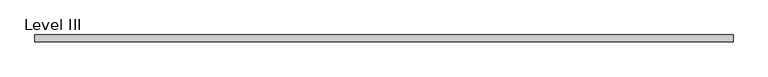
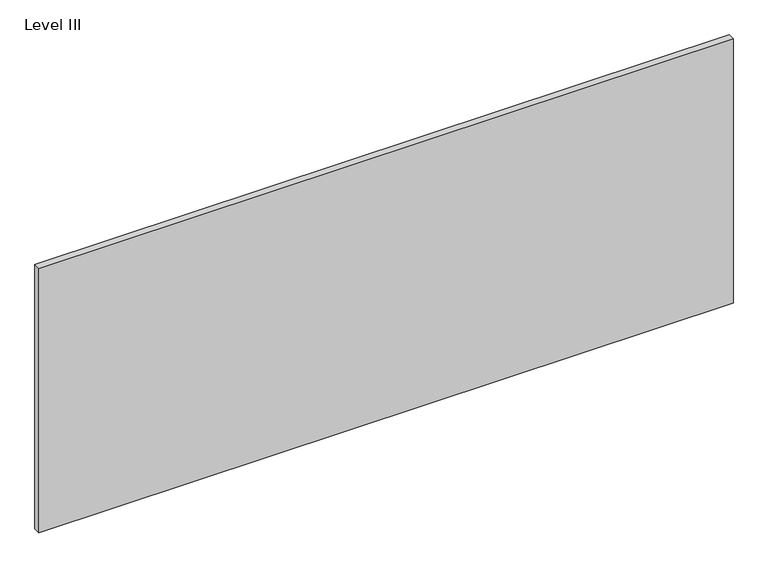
"""IFC4 building model written with IfcOpenShell, lengths in millimetres: proxy geometry, Panel-Fascia-Teknion-Altos-Landscape : Level III."""

from ifc_helpers import new_model, si_unit, frame, origin, place, context, project, spatial, polyline, outline, extrude, source, transform, mapped, element, save


def level_iii_1ffc0a55(model_context):
    return source(origin(), model_context, "Body", "SweptSolid", [
        extrude(outline(polyline([(998.8407125, -9.525), (-998.8407125, -9.525), (-998.8407125, 9.525), (998.8407125, 9.525), (998.8407125, -9.525)])), frame((0.0, 0.0, 3.175), z_axis=(0.0, 0.0, 1.0), x_axis=(1.0, 0.0, 0.0)), (0.0, 0.0, 1.0), 804.418),
    ])


if __name__ == "__main__":
    model = new_model("IFC4")
    model_context = context("Model", 3, world=origin())
    ifc_project = project(units=[si_unit("LENGTHUNIT", "METRE", prefix="MILLI")], contexts=[model_context])
    site = spatial("IfcSite", under=ifc_project)
    building = spatial("IfcBuilding", under=site)
    placement = place(None, origin())
    level_iii_shape = level_iii_1ffc0a55(model_context)
    element("IfcBuildingElementProxy", 1, Name="Panel-Fascia-Teknion-Altos-Landscape : Level III", ObjectType="Panel-Fascia-Teknion-Altos-Landscape : Level III", at=placement, inside=building, context=model_context, shape_type="MappedRepresentation", body=[
        mapped(level_iii_shape, transform((0.0, 0.0, 0.0), x_axis=(1.0, 0.0, 0.0), y_axis=(0.0, 1.0, 0.0), z_axis=(0.0, 0.0, 1.0))),
    ])
    save(model, "model.ifc")
